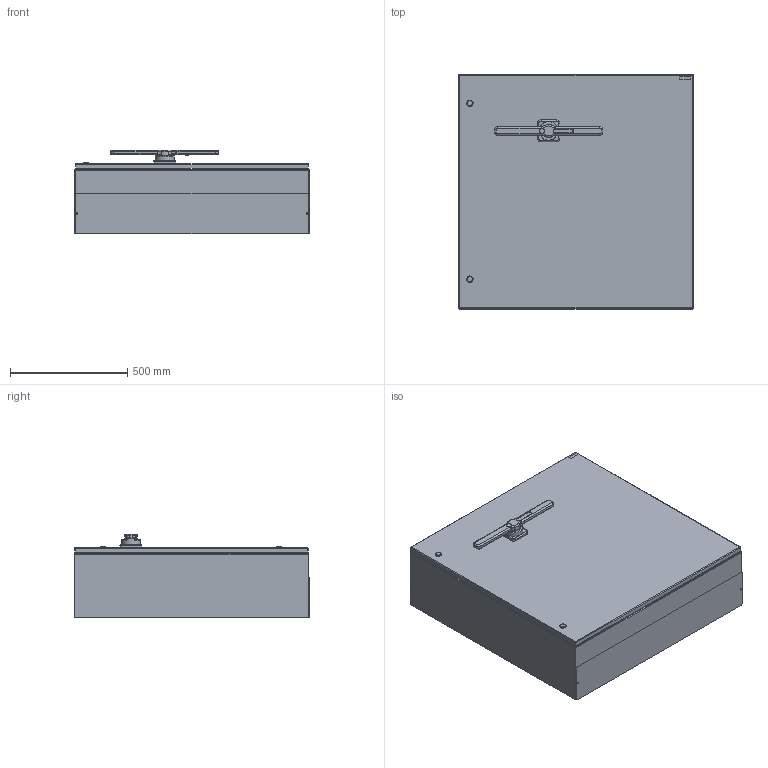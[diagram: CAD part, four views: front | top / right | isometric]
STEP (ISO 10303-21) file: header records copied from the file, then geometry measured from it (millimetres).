
FILE_DESCRIPTION(/* description */ (''),/* implementation_level */ '2;1');
FILE_NAME(/* name */ '4003098.stp',/* time_stamp */ '2017-02-15T08:08:24+01:00',/* author */ (''),/* organization */ (''),/* preprocessor_version */ 'ST-DEVELOPER v16',/* originating_system */ 'SIEMENS PLM Software NX 11.0',/* authorisation */ '');
FILE_SCHEMA (('AUTOMOTIVE_DESIGN { 1 0 10303 214 3 1 1 1 }'));
Length unit declared in the file: millimetre
Products named in the file (1): 4003098_LINKEDEXT_jt
Bounding box: 1000 x 1005.5 x 357.6 mm (x, y, z)
Surface area: 3728050.2 mm2 (no closed solid volume)
Topology: 0 solids, 29 shells, 133 faces, 474 edges, 349 vertices
Faces by surface type: cylinder 54, plane 36, torus 26, bspline 10, cone 4, sphere 3
Full cylindrical faces by diameter (mm): 17 x2, 28 x2, 80 x1
Entity records: 6729 total; most frequent: CARTESIAN_POINT 2723, ORIENTED_EDGE 642, EDGE_CURVE 453, DIRECTION 408, VERTEX_POINT 340, B_SPLINE_CURVE_WITH_KNOTS 322, AXIS2_PLACEMENT_3D 153, EDGE_LOOP 140
